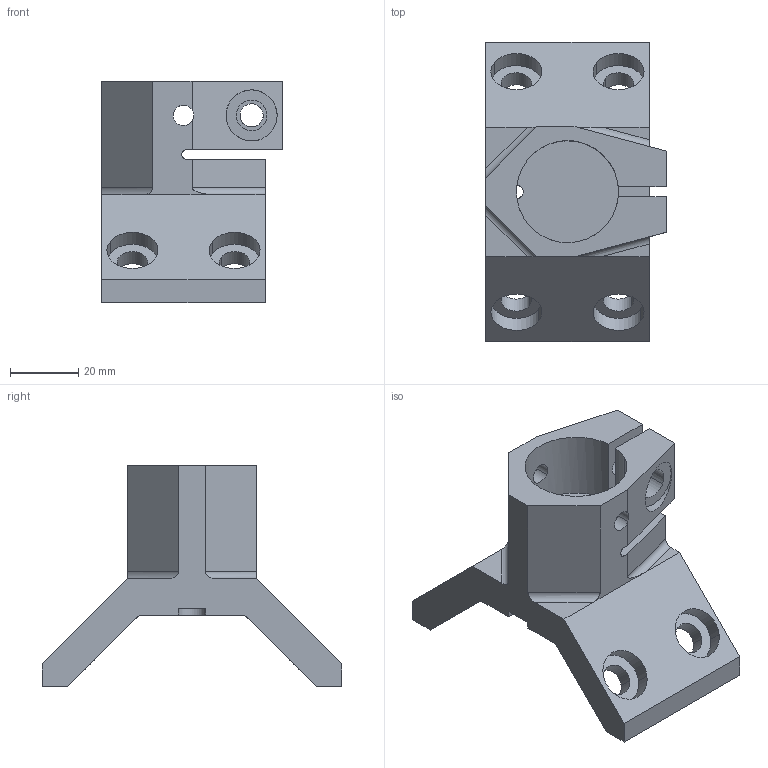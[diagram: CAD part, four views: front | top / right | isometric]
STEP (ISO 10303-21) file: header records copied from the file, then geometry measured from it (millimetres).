
FILE_DESCRIPTION(('CATIA V5 STEP Exchange'),'2;1');
FILE_NAME('E:\Euro Gripper 3D\EGT119_ANBINDUNG_ACHTKANT_SW_80.stp','2012-09-17T02:22:15+00:00',('none'),('none'),'CATIA Version 5 Release 21 GA (IN-10)','CATIA V5 STEP AP203','none');
FILE_SCHEMA(('CONFIG_CONTROL_DESIGN'));
Length unit declared in the file: millimetre
Products named in the file (1): EGT119_ANBINDUNG_ACHTKANT_SW_80
Bounding box: 53 x 88 x 65 mm (x, y, z)
Volume: 67153.4 mm3; surface area: 24290.9 mm2
Topology: 1 solids, 1 shells, 80 faces, 231 edges, 153 vertices
Faces by surface type: plane 40, cylinder 38, cone 2
Entity records: 2775 total; most frequent: CARTESIAN_POINT 759, ORIENTED_EDGE 458, DIRECTION 309, EDGE_CURVE 229, VERTEX_POINT 153, VECTOR 140, LINE 140, AXIS2_PLACEMENT_3D 118
